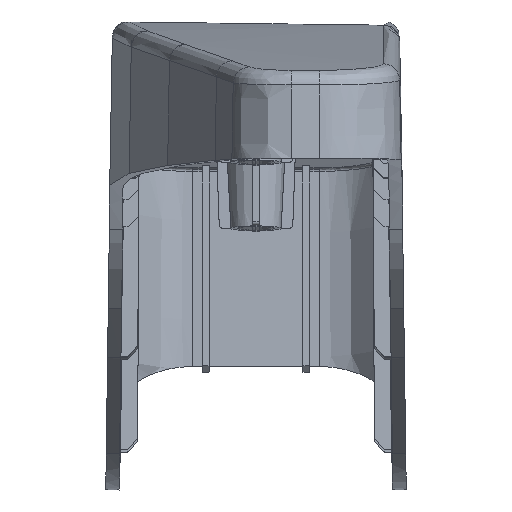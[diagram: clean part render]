
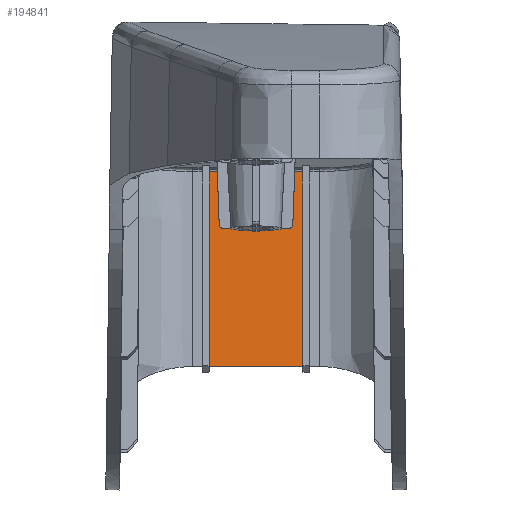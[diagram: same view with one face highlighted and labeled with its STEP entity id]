
A CAD part, left-side view. The second image highlights one B-rep face of the part: STEP entity #194841.
In plain terms, the highlighted planar face has unit normal (-0.997, 0, 0.079).
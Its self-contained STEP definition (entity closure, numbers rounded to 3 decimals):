
#187516=CARTESIAN_POINT('Vertex',(20.747,-433.459,590.091)) ;
#187521=CARTESIAN_POINT('Line Origine',(21.898,-433.511,604.722)) ;
#187525=CARTESIAN_POINT('Vertex',(23.049,-433.562,619.353)) ;
#187616=CARTESIAN_POINT('Vertex',(23.049,-447.438,619.353)) ;
#187619=CARTESIAN_POINT('Line Origine',(21.898,-447.49,604.722)) ;
#187623=CARTESIAN_POINT('Vertex',(20.747,-447.541,590.091)) ;
#194381=CARTESIAN_POINT('Control Point',(20.747,-447.541,590.091)) ;
#194382=CARTESIAN_POINT('Control Point',(20.747,-444.724,590.091)) ;
#194383=CARTESIAN_POINT('Control Point',(20.747,-441.908,590.091)) ;
#194384=CARTESIAN_POINT('Control Point',(20.747,-439.092,590.091)) ;
#194385=CARTESIAN_POINT('Control Point',(20.747,-436.276,590.091)) ;
#194386=CARTESIAN_POINT('Control Point',(20.747,-433.459,590.091)) ;
#194794=CARTESIAN_POINT('Axis2P3D Location',(23.243,-448.363,621.811)) ;
#194807=CARTESIAN_POINT('Control Point',(23.049,-433.562,619.353)) ;
#194808=CARTESIAN_POINT('Control Point',(23.049,-435.505,619.353)) ;
#194809=CARTESIAN_POINT('Control Point',(23.049,-437.447,619.353)) ;
#194810=CARTESIAN_POINT('Control Point',(23.049,-439.39,619.353)) ;
#194811=CARTESIAN_POINT('Control Point',(23.049,-441.472,619.353)) ;
#194812=CARTESIAN_POINT('Control Point',(23.049,-443.553,619.353)) ;
#194813=CARTESIAN_POINT('Control Point',(23.049,-443.692,619.353)) ;
#194814=CARTESIAN_POINT('Control Point',(23.049,-443.969,619.353)) ;
#194815=CARTESIAN_POINT('Control Point',(23.049,-444.247,619.353)) ;
#194816=CARTESIAN_POINT('Control Point',(23.049,-444.386,619.353)) ;
#194817=CARTESIAN_POINT('Control Point',(23.049,-444.784,619.353)) ;
#194818=CARTESIAN_POINT('Control Point',(23.049,-445.183,619.353)) ;
#194819=CARTESIAN_POINT('Control Point',(23.049,-445.444,619.353)) ;
#194820=CARTESIAN_POINT('Control Point',(23.049,-445.721,619.353)) ;
#194821=CARTESIAN_POINT('Control Point',(23.049,-445.999,619.353)) ;
#194822=CARTESIAN_POINT('Control Point',(23.049,-446.016,619.353)) ;
#194823=CARTESIAN_POINT('Control Point',(23.049,-446.051,619.353)) ;
#194824=CARTESIAN_POINT('Control Point',(23.049,-446.085,619.353)) ;
#194825=CARTESIAN_POINT('Control Point',(23.049,-446.103,619.353)) ;
#194826=CARTESIAN_POINT('Control Point',(23.049,-446.363,619.353)) ;
#194827=CARTESIAN_POINT('Control Point',(23.049,-446.623,619.353)) ;
#194828=CARTESIAN_POINT('Control Point',(23.049,-446.866,619.353)) ;
#194829=CARTESIAN_POINT('Control Point',(23.049,-447.126,619.353)) ;
#194830=CARTESIAN_POINT('Control Point',(23.049,-447.386,619.353)) ;
#194831=CARTESIAN_POINT('Control Point',(23.049,-447.404,619.353)) ;
#194832=CARTESIAN_POINT('Control Point',(23.049,-447.421,619.353)) ;
#194833=CARTESIAN_POINT('Control Point',(23.049,-447.438,619.353)) ;
#187522=DIRECTION('Vector Direction',(0.078,-0.003,0.997)) ;
#187620=DIRECTION('Vector Direction',(0.078,0.003,0.997)) ;
#194795=DIRECTION('Axis2P3D Direction',(0.997,0.,-0.078)) ;
#194796=DIRECTION('Axis2P3D XDirection',(0.,-1.,0.)) ;
#194797=AXIS2_PLACEMENT_3D('Plane Axis2P3D',#194794,#194795,#194796) ;
#194836=ORIENTED_EDGE('',*,*,#187527,.F.) ;
#194837=ORIENTED_EDGE('',*,*,#194387,.T.) ;
#194838=ORIENTED_EDGE('',*,*,#187625,.T.) ;
#194839=ORIENTED_EDGE('',*,*,#194834,.F.) ;
#187523=VECTOR('Line Direction',#187522,1.) ;
#187621=VECTOR('Line Direction',#187620,1.) ;
#194841=ADVANCED_FACE('\X2\51E04F554F53\X0\.11',(#194840),#194798,.F.) ;
#194380=B_SPLINE_CURVE_WITH_KNOTS('',5,(#194381,#194382,#194383,#194384,#194385,#194386),.UNSPECIFIED.,.F.,.U.,(6,6),(-7.041,7.041),.UNSPECIFIED.) ;
#194806=B_SPLINE_CURVE_WITH_KNOTS('',5,(#194807,#194808,#194809,#194810,#194811,#194812,#194813,#194814,#194815,#194816,#194817,#194818,#194819,#194820,#194821,#194822,#194823,#194824,#194825,#194826,#194827,#194828,#194829,#194830,#194831,#194832,#194833),.UNSPECIFIED.,.F.,.U.,(6,3,3,3,3,3,3,3,6),(0.,13.737,14.718,15.699,17.539,17.662,17.784,19.501,19.624),.UNSPECIFIED.) ;
#187527=EDGE_CURVE('',#187517,#187526,#187524,.T.) ;
#187625=EDGE_CURVE('',#187624,#187617,#187622,.T.) ;
#194387=EDGE_CURVE('',#187517,#187624,#194380,.F.) ;
#194834=EDGE_CURVE('',#187526,#187617,#194806,.T.) ;
#194835=EDGE_LOOP('',(#194836,#194837,#194838,#194839)) ;
#194840=FACE_OUTER_BOUND('',#194835,.T.) ;
#187524=LINE('Line',#187521,#187523) ;
#187622=LINE('Line',#187619,#187621) ;
#194798=PLANE('Plane',#194797) ;
#187517=VERTEX_POINT('',#187516) ;
#187526=VERTEX_POINT('',#187525) ;
#187617=VERTEX_POINT('',#187616) ;
#187624=VERTEX_POINT('',#187623) ;
